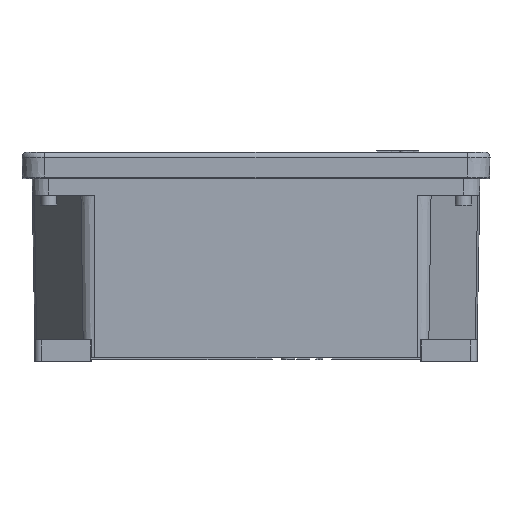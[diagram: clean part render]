
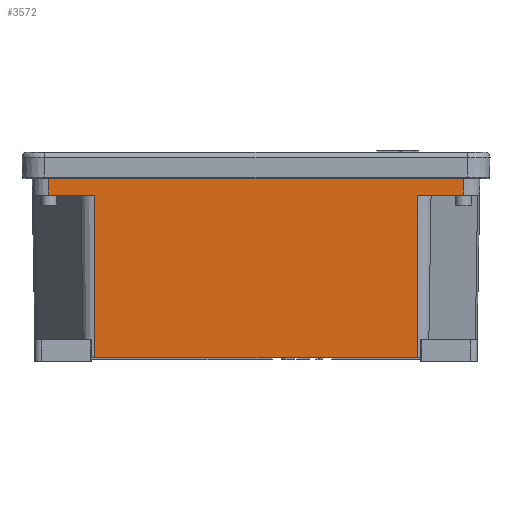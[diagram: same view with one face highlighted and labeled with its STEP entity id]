
A CAD part, front view. The second image highlights one B-rep face of the part: STEP entity #3572.
In plain terms, the highlighted planar face has unit normal (0, -1, -0.018).
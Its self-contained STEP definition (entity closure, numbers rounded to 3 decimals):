
#436=LINE('',#16400,#1550);
#498=LINE('',#16587,#1612);
#509=LINE('',#16626,#1623);
#512=LINE('',#16684,#1626);
#514=LINE('',#16740,#1628);
#519=LINE('',#16811,#1633);
#523=LINE('',#16832,#1637);
#538=LINE('',#16858,#1652);
#539=LINE('',#16860,#1653);
#540=LINE('',#16862,#1654);
#541=LINE('',#16864,#1655);
#542=LINE('',#16865,#1656);
#1550=VECTOR('',#12435,1.);
#1612=VECTOR('',#12539,1.);
#1623=VECTOR('',#12564,1.);
#1626=VECTOR('',#12577,1.);
#1628=VECTOR('',#12589,1.);
#1633=VECTOR('',#12612,1.);
#1637=VECTOR('',#12626,1.);
#1652=VECTOR('',#12649,1.);
#1653=VECTOR('',#12652,1.);
#1654=VECTOR('',#12653,1.);
#1655=VECTOR('',#12654,1.);
#1656=VECTOR('',#12655,1.);
#2522=PLANE('',#11212);
#2910=FACE_OUTER_BOUND('',#4400,.T.);
#3572=ADVANCED_FACE('PLAN_FACE14',(#2910),#2522,.F.);
#4400=EDGE_LOOP('',(#5574,#5575,#5576,#5577,#5578,#5579,#5580,#5581,#5582,
#5583,#5584,#5585));
#5574=ORIENTED_EDGE('',*,*,#9497,.F.);
#5575=ORIENTED_EDGE('',*,*,#9537,.F.);
#5576=ORIENTED_EDGE('',*,*,#9538,.F.);
#5577=ORIENTED_EDGE('',*,*,#9539,.T.);
#5578=ORIENTED_EDGE('',*,*,#9489,.F.);
#5579=ORIENTED_EDGE('',*,*,#9536,.T.);
#5580=ORIENTED_EDGE('',*,*,#9512,.T.);
#5581=ORIENTED_EDGE('',*,*,#9464,.T.);
#5582=ORIENTED_EDGE('',*,*,#9383,.T.);
#5583=ORIENTED_EDGE('',*,*,#9480,.F.);
#5584=ORIENTED_EDGE('',*,*,#9521,.T.);
#5585=ORIENTED_EDGE('',*,*,#9540,.F.);
#8300=VERTEX_POINT('',#16399);
#8301=VERTEX_POINT('',#16401);
#8375=VERTEX_POINT('',#16588);
#8385=VERTEX_POINT('',#16625);
#8394=VERTEX_POINT('',#16683);
#8395=VERTEX_POINT('',#16685);
#8402=VERTEX_POINT('',#16739);
#8403=VERTEX_POINT('',#16741);
#8415=VERTEX_POINT('',#16812);
#8422=VERTEX_POINT('',#16831);
#8430=VERTEX_POINT('',#16861);
#8431=VERTEX_POINT('',#16863);
#9383=EDGE_CURVE('',#8301,#8300,#436,.T.);
#9464=EDGE_CURVE('',#8375,#8301,#498,.T.);
#9480=EDGE_CURVE('',#8385,#8300,#509,.T.);
#9489=EDGE_CURVE('',#8394,#8395,#512,.T.);
#9497=EDGE_CURVE('',#8402,#8403,#514,.T.);
#9512=EDGE_CURVE('',#8415,#8375,#519,.T.);
#9521=EDGE_CURVE('',#8385,#8422,#523,.T.);
#9536=EDGE_CURVE('',#8394,#8415,#538,.T.);
#9537=EDGE_CURVE('',#8430,#8402,#539,.T.);
#9538=EDGE_CURVE('',#8431,#8430,#540,.T.);
#9539=EDGE_CURVE('',#8431,#8395,#541,.T.);
#9540=EDGE_CURVE('',#8403,#8422,#542,.T.);
#11212=AXIS2_PLACEMENT_3D('',#16866,#12656,#12657);
#12435=DIRECTION('',(1.,0.,0.));
#12539=DIRECTION('',(0.,0.017,-1.));
#12564=DIRECTION('',(0.,0.017,-1.));
#12577=DIRECTION('',(1.,0.,0.));
#12589=DIRECTION('',(1.,0.,0.));
#12612=DIRECTION('',(1.,0.,0.));
#12626=DIRECTION('',(1.,0.,0.));
#12649=DIRECTION('',(0.,0.017,-1.));
#12652=DIRECTION('',(0.,0.017,-1.));
#12653=DIRECTION('',(1.,0.,0.));
#12654=DIRECTION('',(0.,0.017,-1.));
#12655=DIRECTION('',(0.,0.017,-1.));
#12656=DIRECTION('',(0.,1.,0.017));
#12657=DIRECTION('',(0.,-0.017,1.));
#16399=CARTESIAN_POINT('',(48.996,-79.175,-28.25));
#16400=CARTESIAN_POINT('',(48.996,-79.175,-28.25));
#16401=CARTESIAN_POINT('',(-48.996,-79.175,-28.25));
#16587=CARTESIAN_POINT('',(-48.996,-79.175,-28.25));
#16588=CARTESIAN_POINT('',(-48.996,-80.039,21.25));
#16625=CARTESIAN_POINT('',(48.996,-80.039,21.25));
#16626=CARTESIAN_POINT('',(48.996,-79.175,-28.25));
#16683=CARTESIAN_POINT('',(-63.125,-80.144,27.25));
#16684=CARTESIAN_POINT('',(63.125,-80.144,27.25));
#16685=CARTESIAN_POINT('',(-48.996,-80.144,27.25));
#16739=CARTESIAN_POINT('',(48.996,-80.144,27.25));
#16740=CARTESIAN_POINT('',(63.125,-80.144,27.25));
#16741=CARTESIAN_POINT('',(63.125,-80.144,27.25));
#16811=CARTESIAN_POINT('',(63.125,-80.039,21.25));
#16812=CARTESIAN_POINT('',(-63.125,-80.039,21.25));
#16831=CARTESIAN_POINT('',(63.125,-80.039,21.25));
#16832=CARTESIAN_POINT('',(63.125,-80.039,21.25));
#16858=CARTESIAN_POINT('',(-63.125,-79.175,-28.25));
#16860=CARTESIAN_POINT('',(48.996,-79.175,-28.25));
#16861=CARTESIAN_POINT('',(48.996,-80.179,29.25));
#16862=CARTESIAN_POINT('',(48.996,-80.179,29.25));
#16863=CARTESIAN_POINT('',(-48.996,-80.179,29.25));
#16864=CARTESIAN_POINT('',(-48.996,-79.175,-28.25));
#16865=CARTESIAN_POINT('',(63.125,-79.175,-28.25));
#16866=CARTESIAN_POINT('',(63.125,-79.175,-28.25));
